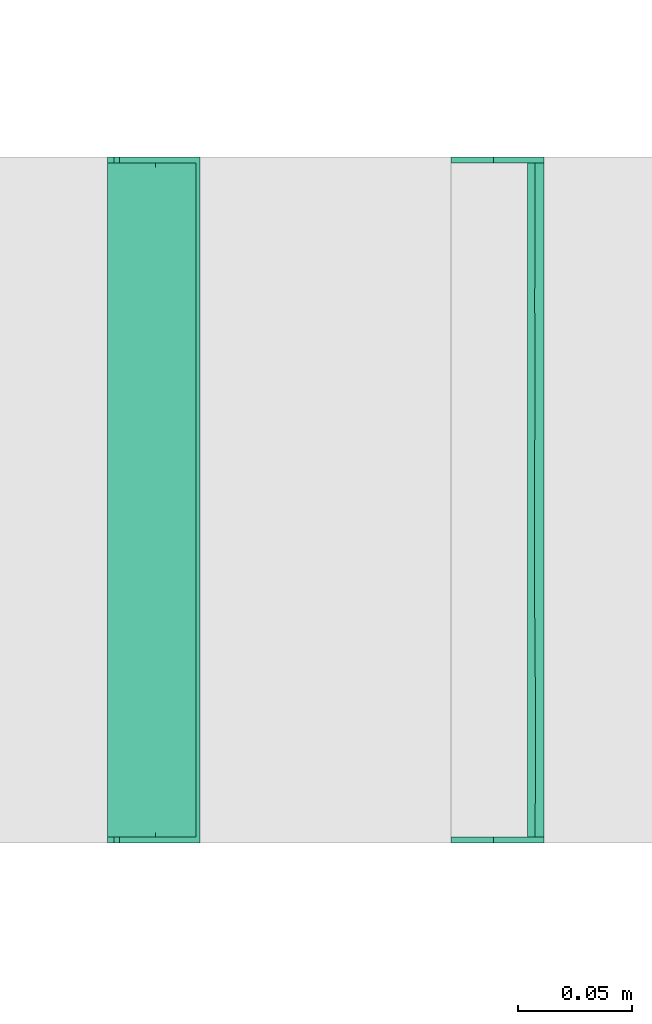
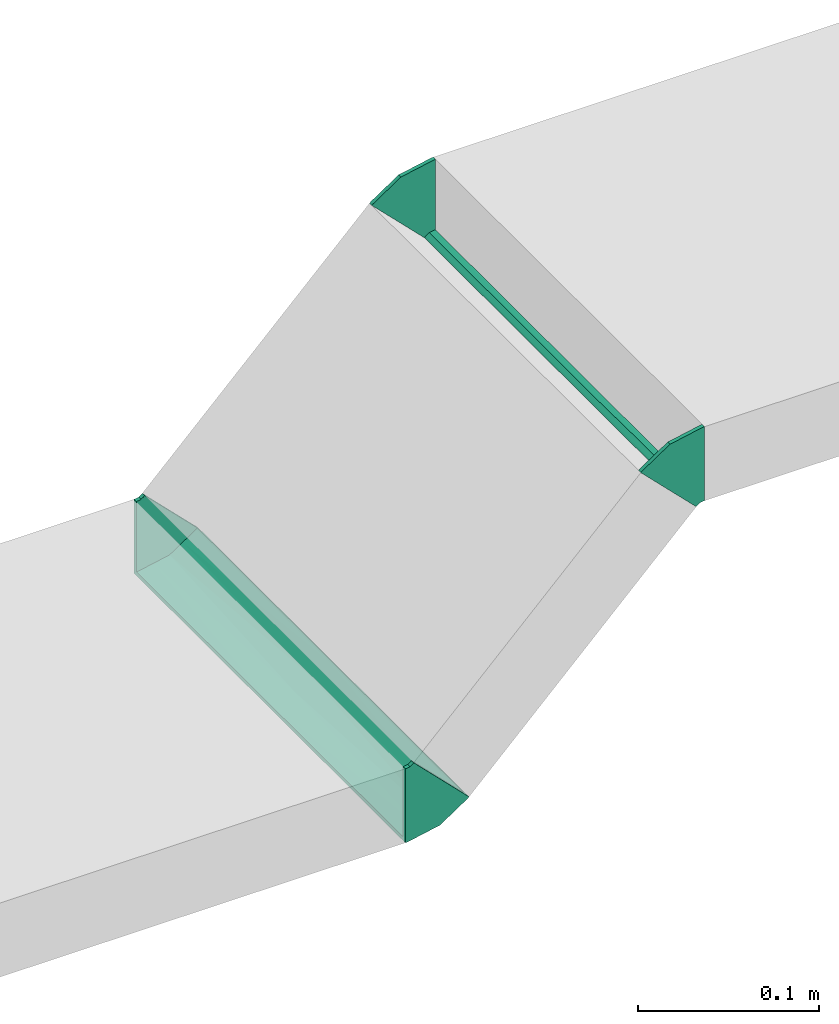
# One storey, part 57 of 166: 2 flow fittings.
"""IFC2X3 building model written with IfcOpenShell, lengths in metres."""

from ifc_helpers import new_model, entity, si_unit, converted_unit, derived_unit, direction, frame, origin, place, context, subcontext, project, spatial, faceted_brep, source, transform, mapped, type_object, type_shapes, element, save


model = new_model("IFC2X3")

# Units and contexts
model_context = context("Model", 3, precision=1e-05, world=origin(), true_north=direction((6.12303176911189e-17, 1.0)))
body_context = subcontext(model_context, "Body", "Model", "MODEL_VIEW")
ifc_project = project(units=[si_unit("LENGTHUNIT", "METRE"), si_unit("AREAUNIT", "SQUARE_METRE"), si_unit("VOLUMEUNIT", "CUBIC_METRE"), converted_unit("PLANEANGLEUNIT", "DEGREE", entity("IfcRatioMeasure", 0.0174532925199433), si_unit("PLANEANGLEUNIT", "RADIAN"), dimensions=[0, 0, 0, 0, 0, 0, 0]), si_unit("MASSUNIT", "GRAM", prefix="KILO"), derived_unit("MASSDENSITYUNIT", [(si_unit("MASSUNIT", "GRAM", prefix="KILO"), 1), (si_unit("LENGTHUNIT", "METRE"), -3)]), si_unit("TIMEUNIT", "SECOND"), si_unit("FREQUENCYUNIT", "HERTZ"), si_unit("THERMODYNAMICTEMPERATUREUNIT", "DEGREE_CELSIUS"), derived_unit("THERMALTRANSMITTANCEUNIT", [(si_unit("MASSUNIT", "GRAM", prefix="KILO"), 1), (si_unit("THERMODYNAMICTEMPERATUREUNIT", "KELVIN"), -1), (si_unit("TIMEUNIT", "SECOND"), -3)]), derived_unit("VOLUMETRICFLOWRATEUNIT", [(si_unit("LENGTHUNIT", "METRE"), 3), (si_unit("TIMEUNIT", "SECOND"), -1)]), si_unit("ELECTRICCURRENTUNIT", "AMPERE"), si_unit("ELECTRICVOLTAGEUNIT", "VOLT"), si_unit("POWERUNIT", "WATT"), si_unit("FORCEUNIT", "NEWTON"), si_unit("ILLUMINANCEUNIT", "LUX"), si_unit("LUMINOUSFLUXUNIT", "LUMEN"), si_unit("LUMINOUSINTENSITYUNIT", "CANDELA"), derived_unit("USERDEFINED", [(si_unit("MASSUNIT", "GRAM", prefix="KILO"), -1), (si_unit("LENGTHUNIT", "METRE"), -2), (si_unit("TIMEUNIT", "SECOND"), 3), (si_unit("LUMINOUSFLUXUNIT", "LUMEN"), 1)]), derived_unit("LINEARVELOCITYUNIT", [(si_unit("LENGTHUNIT", "METRE"), 1), (si_unit("TIMEUNIT", "SECOND"), -1)]), si_unit("PRESSUREUNIT", "PASCAL"), derived_unit("USERDEFINED", [(si_unit("LENGTHUNIT", "METRE"), -2), (si_unit("MASSUNIT", "GRAM", prefix="KILO"), 1), (si_unit("TIMEUNIT", "SECOND"), -2)])], contexts=[model_context])

# Site, building, storey
site_placement = place(None, origin())
site = spatial("IfcSite", under=ifc_project, at=site_placement, Name="Default", CompositionType="ELEMENT")
building_placement = place(site_placement, origin())
building = spatial("IfcBuilding", under=site, at=building_placement, CompositionType="ELEMENT")
storey_placement = place(building_placement, frame((0.0, 0.0, 4.27)))
storey = spatial("IfcBuildingStorey", under=building, at=storey_placement, Name="01", CompositionType="ELEMENT", Elevation=4.27)

# Flow fittings
cable_carrier_fitting_type_1 = type_object("IfcCableCarrierFittingType", Name="E_Bend_Vertical_Inside_CA_Generic_MEPcontent", PredefinedType="NOTDEFINED")
shared_shape_1 = source(origin(), body_context, "Body", "Brep", [
    faceted_brep([(-0.00886744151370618, 0.0264878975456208, 0.14746000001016), (-0.00886744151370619, 0.0264878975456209, 0.15), (0.0264878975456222, -0.00886744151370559, 0.15), (0.0264878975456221, -0.0088674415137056, 0.0), (0.0264878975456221, -0.00886744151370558, -0.15), (-0.00886744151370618, 0.0264878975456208, -0.15), (-0.00886744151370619, 0.0264878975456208, -0.14746000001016), (0.0246918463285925, -0.00707139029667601, -0.14746000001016), (0.0246918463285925, -0.00707139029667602, 0.0), (0.0246918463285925, -0.007071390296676, 0.14746000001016), (-0.0124595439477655, 0.025, -0.14746000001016), (-0.0124595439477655, 0.025, -0.15), (-0.0124595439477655, -0.025, -0.15), (-0.0124595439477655, -0.025, 0.0), (-0.0124595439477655, -0.025, 0.15), (-0.0124595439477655, 0.025, 0.15), (-0.0124595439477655, 0.025, 0.14746000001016), (-0.0124595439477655, -0.02246000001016, 0.14746000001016), (-0.0124595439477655, -0.02246000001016, 0.0), (-0.0124595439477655, -0.02246000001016, -0.14746000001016), (-0.00192044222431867, -0.0229036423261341, 0.15), (0.00861865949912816, -0.0208072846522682, 0.15), (0.0175532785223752, -0.0148373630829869, 0.15), (-0.0105155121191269, 0.0253866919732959, 0.15), (-0.0105155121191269, 0.0253866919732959, 0.14746000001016), (0.0161692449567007, -0.0127660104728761, 0.14746000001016), (0.00764664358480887, -0.0184606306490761, 0.14746000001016), (-0.00240645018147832, -0.0204603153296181, 0.14746000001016), (-0.00240645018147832, -0.0204603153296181, -0.14746000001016), (0.00764664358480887, -0.0184606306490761, -0.14746000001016), (0.0161692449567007, -0.0127660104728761, -0.14746000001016), (-0.0105155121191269, 0.0253866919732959, -0.14746000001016), (-0.0105155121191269, 0.0253866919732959, -0.15), (0.0175532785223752, -0.0148373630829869, -0.15), (0.00861865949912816, -0.0208072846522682, -0.15), (-0.00192044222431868, -0.0229036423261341, -0.15), (0.00352933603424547, -0.0226282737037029, 0.0), (0.0151733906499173, -0.0175669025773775, 0.0), (0.00279201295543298, -0.0201976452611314, 0.0), (0.0144110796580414, -0.0150688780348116, 0.0)], [[[0, 1, 2, 3, 4, 5, 6, 7, 8, 9]], [[10, 11, 12, 13, 14, 15, 16, 17, 18, 19]], [[15, 14, 20, 21, 22, 2, 1, 23]], [[24, 0, 9, 25, 26, 27, 17, 16]], [[10, 19, 28, 29, 30, 7, 6, 31]], [[32, 5, 4, 33, 34, 35, 12, 11]], [[35, 36, 13]], [[33, 3, 37]], [[34, 36, 35]], [[34, 37, 36]], [[37, 3, 22]], [[3, 33, 4]], [[2, 22, 3]], [[21, 20, 36]], [[37, 21, 36]], [[37, 34, 33]], [[20, 13, 36]], [[13, 20, 14]], [[12, 35, 13]], [[22, 21, 37]], [[31, 32, 11, 10]], [[15, 23, 24, 16]], [[6, 5, 32, 31]], [[1, 0, 24, 23]], [[18, 38, 28]], [[39, 8, 30]], [[28, 38, 29]], [[38, 39, 29]], [[25, 8, 39]], [[7, 30, 8]], [[8, 25, 9]], [[38, 27, 26]], [[38, 26, 39]], [[30, 29, 39]], [[38, 18, 27]], [[17, 27, 18]], [[18, 28, 19]], [[39, 26, 25]]]),
    faceted_brep([(-0.00886744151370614, 0.0264878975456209, 0.15), (-0.00886744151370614, 0.0264878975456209, 0.14746000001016), (0.0246918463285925, -0.00707139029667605, 0.14746000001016), (0.0246918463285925, -0.00707139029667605, -0.14746000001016), (-0.00886744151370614, 0.0264878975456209, -0.14746000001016), (-0.00886744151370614, 0.0264878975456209, -0.15), (0.0264878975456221, -0.00886744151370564, -0.15), (0.0264878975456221, -0.00886744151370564, 0.15), (-0.00816033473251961, 0.0271950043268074, 0.15), (0.0271950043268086, -0.00816033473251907, 0.15), (0.0271950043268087, -0.00816033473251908, -0.15), (-0.00816033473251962, 0.0271950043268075, -0.15), (-0.00816033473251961, 0.0271950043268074, -0.14746000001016), (0.025398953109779, -0.00636428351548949, -0.14746000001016), (0.025398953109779, -0.00636428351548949, 0.14746000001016), (-0.00816033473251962, 0.0271950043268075, 0.14746000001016)], [[[0, 1, 2, 3, 4, 5, 6, 7]], [[8, 9, 10, 11, 12, 13, 14, 15]], [[6, 5, 11, 10]], [[4, 3, 13, 12]], [[2, 1, 15, 14]], [[0, 7, 9, 8]], [[1, 0, 8, 15]], [[3, 2, 14, 13]], [[5, 4, 12, 11]], [[7, 6, 10, 9]]]),
    faceted_brep([(-0.0124595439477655, 0.025, 0.15), (-0.0124595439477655, -0.025, 0.15), (-0.0124595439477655, -0.025, -0.15), (-0.0124595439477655, 0.025, -0.15), (-0.0124595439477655, 0.025, -0.14746000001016), (-0.0124595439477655, -0.02246000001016, -0.14746000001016), (-0.0124595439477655, -0.02246000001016, 0.14746000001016), (-0.0124595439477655, 0.025, 0.14746000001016), (-0.0134595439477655, 0.025, 0.15), (-0.0134595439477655, 0.025, 0.14746000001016), (-0.0134595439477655, -0.02246000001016, 0.14746000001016), (-0.0134595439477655, -0.02246000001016, -0.14746000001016), (-0.0134595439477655, 0.025, -0.14746000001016), (-0.0134595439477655, 0.025, -0.15), (-0.0134595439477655, -0.025, -0.15), (-0.0134595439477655, -0.025, 0.15)], [[[0, 1, 2, 3, 4, 5, 6, 7]], [[8, 9, 10, 11, 12, 13, 14, 15]], [[1, 0, 8, 15]], [[7, 6, 10, 9]], [[5, 4, 12, 11]], [[3, 2, 14, 13]], [[2, 1, 15, 14]], [[4, 3, 13, 12]], [[6, 5, 11, 10]], [[0, 7, 9, 8]]]),
])
type_shapes(cable_carrier_fitting_type_1, [shared_shape_1])
flow_fitting_1_placement = place(storey_placement, frame((35.243385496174, -188.087883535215, 2.67095756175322), z_axis=(0.0, -1.0, 0.0), x_axis=(1.0, 0.0, 0.0)))
element("IfcFlowFitting", 1, at=flow_fitting_1_placement, inside=storey, type_object=cable_carrier_fitting_type_1, Name="E_Bend_Vertical_Inside_CA_Generic_MEPcontent:E_Bend_Vertical_Inside_CA_Generic_MEPcontent", ObjectType="E_Bend_Vertical_Inside_CA_Generic_MEPcontent:E_Bend_Vertical_Inside_CA_Generic_MEPcontent", context=body_context, shape_type="MappedRepresentation", body=[
    mapped(shared_shape_1, transform((0.0, 0.0, 0.0), scale=1.0)),
])
cable_carrier_fitting_type_2 = type_object("IfcCableCarrierFittingType", Name="E_Bend_Vertical_Outside_CA_Generic_MEPcontent", PredefinedType="NOTDEFINED")
shared_shape_2 = source(origin(), body_context, "Body", "Brep", [
    faceted_brep([(-0.00707139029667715, 0.0246918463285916, 0.14746000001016), (-0.00707139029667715, 0.0246918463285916, 0.123363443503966), (-0.00707139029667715, 0.0246918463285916, 0.0963862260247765), (-0.00707139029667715, 0.0246918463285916, 0.0708493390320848), (-0.00707139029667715, 0.0246918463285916, 0.045312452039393), (-0.00707139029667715, 0.0246918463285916, 0.0212158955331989), (-0.00707139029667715, 0.0246918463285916, -0.00288066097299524), (-0.00707139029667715, 0.0246918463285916, -0.0269772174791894), (-0.00707139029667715, 0.0246918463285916, -0.0510737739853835), (-0.00707139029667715, 0.0246918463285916, -0.0751703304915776), (-0.00707139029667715, 0.0246918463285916, -0.0992668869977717), (-0.00707139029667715, 0.0246918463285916, -0.123363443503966), (-0.00707139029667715, 0.0246918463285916, -0.14746000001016), (0.0264878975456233, -0.00886744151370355, -0.14746000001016), (0.0264878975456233, -0.00886744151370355, -0.15), (-0.00886744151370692, 0.026487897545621, -0.15), (-0.00886744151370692, 0.026487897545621, -0.130325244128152), (-0.00886744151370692, 0.026487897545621, -0.110650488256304), (-0.00886744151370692, 0.026487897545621, -0.0909757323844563), (-0.00886744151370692, 0.026487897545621, -0.0713009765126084), (-0.00886744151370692, 0.026487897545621, -0.0516262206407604), (-0.00886744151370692, 0.026487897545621, -0.0319514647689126), (-0.00886744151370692, 0.026487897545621, -0.0122767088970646), (-0.00886744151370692, 0.026487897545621, 0.00739804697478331), (-0.00886744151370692, 0.026487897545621, 0.0252232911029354), (-0.00886744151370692, 0.026487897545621, 0.0430485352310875), (-0.00886744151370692, 0.026487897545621, 0.0608737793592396), (-0.00886744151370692, 0.026487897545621, 0.0786990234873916), (-0.00886744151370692, 0.026487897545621, 0.0946747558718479), (-0.00886744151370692, 0.026487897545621, 0.110650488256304), (-0.00886744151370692, 0.026487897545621, 0.130325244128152), (-0.00886744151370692, 0.026487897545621, 0.15), (0.0264878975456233, -0.00886744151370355, 0.15), (0.0264878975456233, -0.00886744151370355, 0.14746000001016), (-0.0124595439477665, 0.02246000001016, -0.14746000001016), (-0.0124595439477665, 0.02246000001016, -0.123363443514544), (-0.0124595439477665, 0.02246000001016, -0.0992668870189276), (-0.0124595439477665, 0.02246000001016, -0.0751703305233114), (-0.0124595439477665, 0.02246000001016, -0.0510737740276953), (-0.0124595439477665, 0.02246000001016, -0.0255368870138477), (-0.0124595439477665, 0.02246000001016, 0.0), (-0.0124595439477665, 0.02246000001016, 0.03686500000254), (-0.0124595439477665, 0.02246000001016, 0.05529750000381), (-0.0124595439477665, 0.02246000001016, 0.07373000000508), (-0.0124595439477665, 0.02246000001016, 0.11059500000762), (-0.0124595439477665, 0.02246000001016, 0.14746000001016), (-0.0124595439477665, -0.025, 0.14746000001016), (-0.0124595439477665, -0.025, 0.15), (-0.0124595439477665, 0.025, 0.15), (-0.0124595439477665, 0.025, 0.130325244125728), (-0.0124595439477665, 0.025, 0.1125), (-0.0124595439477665, 0.025, 0.09375), (-0.0124595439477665, 0.025, 0.075), (-0.0124595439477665, 0.025, 0.05625), (-0.0124595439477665, 0.025, 0.0375), (-0.0124595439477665, 0.025, 0.01875), (-0.0124595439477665, 0.025, 0.0), (-0.0124595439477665, 0.025, -0.0178252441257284), (-0.0124595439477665, 0.025, -0.0356504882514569), (-0.0124595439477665, 0.025, -0.0534757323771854), (-0.0124595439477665, 0.025, -0.0713009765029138), (-0.0124595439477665, 0.025, -0.0909757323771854), (-0.0124595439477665, 0.025, -0.110650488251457), (-0.0124595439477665, 0.025, -0.130325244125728), (-0.0124595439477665, 0.025, -0.15), (-0.0124595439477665, -0.025, -0.15), (-0.0124595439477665, -0.025, -0.14746000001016), (-0.00192044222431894, -0.0229036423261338, 0.15), (0.00861865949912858, -0.0208072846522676, 0.15), (0.0175532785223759, -0.0148373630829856, 0.15), (-0.0105155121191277, 0.025386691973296, 0.15), (-0.00456795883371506, -0.0234302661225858, 0.14746000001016), (0.00861865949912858, -0.0208072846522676, 0.14746000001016), (-0.00192044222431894, -0.0229036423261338, -0.15), (0.00861865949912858, -0.0208072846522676, -0.15), (0.00861865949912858, -0.0208072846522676, -0.14746000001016), (-0.00192044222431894, -0.0229036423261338, -0.14746000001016), (0.0175532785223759, -0.0148373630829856, 0.14746000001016), (0.0197977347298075, -0.0133376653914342, -0.15), (0.0175532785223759, -0.0148373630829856, -0.14746000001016), (-0.00954349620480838, 0.023040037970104, 0.14746000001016), (-0.00954349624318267, 0.0230400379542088, -0.0631220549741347), (-0.00954270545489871, 0.0230403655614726, -0.0382951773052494), (-0.00954349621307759, 0.0230400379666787, -0.11131516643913), (-0.00954349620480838, 0.023040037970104, -0.14746000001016), (-0.00934317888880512, 0.0231263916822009, 0.0332641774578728), (-0.00982348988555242, 0.0229304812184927, 0.124114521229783), (-0.00961193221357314, 0.0230120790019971, 0.0645137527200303), (-0.00948913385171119, 0.0230628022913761, -0.0872186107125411), (-0.00945057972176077, 0.023079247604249, 0.00916762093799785), (-0.00981715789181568, 0.0229328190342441, 0.0889891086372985), (-0.00946151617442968, 0.0230745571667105, -0.0145678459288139), (-0.0105155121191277, 0.025386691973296, -0.15), (-0.0106356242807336, 0.0253387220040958, -0.026737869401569), (-0.0104683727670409, 0.0254064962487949, -0.0429918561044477), (-0.0105155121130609, 0.0253866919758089, -0.105328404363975), (-0.0105155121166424, 0.0253866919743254, -0.120487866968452), (-0.0105155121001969, 0.0253866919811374, -0.0623883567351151), (-0.0105155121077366, 0.0253866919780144, -0.0781480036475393), (-0.01051551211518, 0.0253866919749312, 0.121412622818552), (-0.010348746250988, 0.0254592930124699, 0.016310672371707), (-0.0104407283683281, 0.0254183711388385, 0.00148144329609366), (-0.0106519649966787, 0.0253324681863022, -0.0125818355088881), (-0.010483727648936, 0.025399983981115, 0.0866868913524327), (-0.0105609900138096, 0.0253681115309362, 0.106209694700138), (-0.0103966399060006, 0.02543771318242, 0.135706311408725), (-0.010551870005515, 0.0253717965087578, -0.135243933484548), (-0.0104226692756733, 0.0254262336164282, 0.071338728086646), (-0.0104368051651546, 0.0254200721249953, 0.03716180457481), (-0.0103768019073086, 0.0254465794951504, 0.0519611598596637), (-0.0104363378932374, 0.0254202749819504, -0.0917382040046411)], [[[0, 1, 2, 3, 4, 5, 6, 7, 8, 9, 10, 11, 12, 13, 14, 15, 16, 17, 18, 19, 20, 21, 22, 23, 24, 25, 26, 27, 28, 29, 30, 31, 32, 33]], [[34, 35, 36, 37, 38, 39, 40, 41, 42, 43, 44, 45, 46, 47, 48, 49, 50, 51, 52, 53, 54, 55, 56, 57, 58, 59, 60, 61, 62, 63, 64, 65, 66]], [[48, 47, 67, 68, 69, 32, 31, 70]], [[67, 47, 46, 71, 72, 68]], [[65, 73, 74, 75, 76, 66]], [[69, 68, 72, 77, 33, 32]], [[74, 78, 14, 13, 79, 75]], [[80, 0, 33, 77, 72, 71, 46, 45]], [[81, 8, 82]], [[81, 82, 38]], [[83, 84, 12, 11, 10]], [[1, 0, 80]], [[5, 4, 85]], [[86, 1, 80]], [[85, 4, 87]], [[86, 45, 44]], [[38, 82, 39]], [[81, 88, 9]], [[42, 41, 85]], [[89, 6, 5]], [[8, 81, 9]], [[36, 88, 37]], [[2, 86, 90]], [[87, 90, 43]], [[89, 41, 40]], [[35, 34, 84, 83, 36]], [[36, 83, 88]], [[10, 9, 88]], [[82, 91, 39]], [[82, 7, 91]], [[89, 91, 6]], [[89, 5, 85]], [[91, 40, 39]], [[91, 89, 40]], [[81, 38, 37]], [[7, 82, 8]], [[7, 6, 91]], [[37, 88, 81]], [[10, 88, 83]], [[87, 42, 85]], [[89, 85, 41]], [[90, 87, 3]], [[4, 3, 87]], [[43, 42, 87]], [[90, 3, 2]], [[86, 2, 1]], [[44, 43, 90]], [[45, 86, 80]], [[90, 86, 44]], [[34, 66, 76, 75, 79, 13, 12, 84]], [[92, 15, 14, 78, 74, 73, 65, 64]], [[93, 94, 58]], [[95, 96, 63, 62, 61]], [[60, 97, 98]], [[50, 49, 99]], [[100, 101, 56]], [[56, 102, 57]], [[17, 16, 96]], [[28, 103, 104]], [[49, 105, 99]], [[106, 16, 15]], [[19, 18, 98, 97, 20]], [[99, 30, 29]], [[17, 96, 95, 18]], [[92, 64, 106]], [[52, 107, 53]], [[57, 93, 58]], [[105, 49, 48]], [[16, 106, 96]], [[104, 99, 29]], [[107, 52, 103]], [[51, 104, 103]], [[105, 70, 31]], [[99, 105, 30]], [[24, 23, 100]], [[108, 100, 55]], [[50, 99, 104]], [[25, 108, 109]], [[104, 51, 50]], [[26, 25, 109]], [[27, 103, 28]], [[104, 29, 28]], [[51, 103, 52]], [[107, 109, 53]], [[107, 103, 27]], [[108, 54, 109]], [[107, 27, 26]], [[26, 109, 107]], [[53, 109, 54]], [[54, 108, 55]], [[108, 25, 24]], [[106, 63, 96]], [[24, 100, 108]], [[55, 100, 56]], [[101, 22, 102]], [[101, 100, 23]], [[101, 23, 22]], [[102, 93, 57]], [[59, 94, 97]], [[21, 93, 22]], [[21, 94, 93]], [[20, 94, 21]], [[59, 58, 94]], [[60, 59, 97]], [[98, 61, 60]], [[20, 97, 94]], [[110, 95, 61]], [[98, 18, 110]], [[93, 102, 22]], [[101, 102, 56]], [[30, 105, 31]], [[48, 70, 105]], [[63, 106, 64]], [[15, 92, 106]], [[98, 110, 61]], [[110, 18, 95]]]),
    faceted_brep([(-0.00886744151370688, 0.0264878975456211, 0.15), (-0.00886744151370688, 0.0264878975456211, -0.15), (0.0264878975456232, -0.00886744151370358, -0.15), (0.0264878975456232, -0.00886744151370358, -0.14746000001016), (-0.00707139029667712, 0.0246918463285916, -0.14746000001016), (-0.00707139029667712, 0.0246918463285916, 0.14746000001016), (0.0264878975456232, -0.00886744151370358, 0.14746000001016), (0.0264878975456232, -0.00886744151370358, 0.15), (-0.0081603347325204, 0.0271950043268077, 0.15), (0.0271950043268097, -0.00816033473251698, 0.15), (0.0271950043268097, -0.00816033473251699, 0.14746000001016), (-0.00636428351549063, 0.0253989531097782, 0.14746000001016), (-0.00636428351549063, 0.0253989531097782, -0.14746000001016), (0.0271950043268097, -0.00816033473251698, -0.14746000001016), (0.0271950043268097, -0.00816033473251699, -0.15), (-0.00816033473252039, 0.0271950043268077, -0.15)], [[[0, 1, 2, 3, 4, 5, 6, 7]], [[8, 9, 10, 11, 12, 13, 14, 15]], [[1, 0, 8, 15]], [[2, 1, 15, 14]], [[3, 2, 14, 13]], [[4, 3, 13, 12]], [[5, 4, 12, 11]], [[6, 5, 11, 10]], [[7, 6, 10, 9]], [[0, 7, 9, 8]]]),
    faceted_brep([(-0.0124595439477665, 0.025, 0.15), (-0.0124595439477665, -0.025, 0.15), (-0.0124595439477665, -0.025, 0.14746000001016), (-0.0124595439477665, 0.02246000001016, 0.14746000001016), (-0.0124595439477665, 0.02246000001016, -0.14746000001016), (-0.0124595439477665, -0.025, -0.14746000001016), (-0.0124595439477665, -0.025, -0.15), (-0.0124595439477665, 0.025, -0.15), (-0.0134595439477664, 0.025, 0.15), (-0.0134595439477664, 0.025, -0.15), (-0.0134595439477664, -0.025, -0.15), (-0.0134595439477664, -0.025, -0.14746000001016), (-0.0134595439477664, 0.02246000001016, -0.14746000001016), (-0.0134595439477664, 0.02246000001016, 0.14746000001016), (-0.0134595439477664, -0.025, 0.14746000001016), (-0.0134595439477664, -0.025, 0.15)], [[[0, 1, 2, 3, 4, 5, 6, 7]], [[8, 9, 10, 11, 12, 13, 14, 15]], [[1, 0, 8, 15]], [[2, 1, 15, 14]], [[3, 2, 14, 13]], [[4, 3, 13, 12]], [[5, 4, 12, 11]], [[6, 5, 11, 10]], [[7, 6, 10, 9]], [[0, 7, 9, 8]]]),
])
type_shapes(cable_carrier_fitting_type_2, [shared_shape_2])
flow_fitting_2_placement = place(storey_placement, frame((35.4074342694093, -188.087883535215, 2.83500633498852), z_axis=(0.0, -1.0, 0.0), x_axis=(-1.0, 0.0, 0.0)))
element("IfcFlowFitting", 2, at=flow_fitting_2_placement, inside=storey, type_object=cable_carrier_fitting_type_2, Name="E_Bend_Vertical_Outside_CA_Generic_MEPcontent:E_Bend_Vertical_Outside_CA_Generic_MEPcontent", ObjectType="E_Bend_Vertical_Outside_CA_Generic_MEPcontent:E_Bend_Vertical_Outside_CA_Generic_MEPcontent", context=body_context, shape_type="MappedRepresentation", body=[
    mapped(shared_shape_2, transform((0.0, 0.0, 0.0), scale=1.0)),
])

save(model, "model.ifc")
